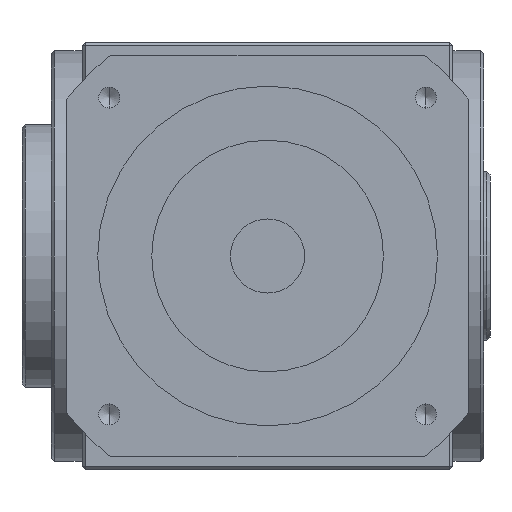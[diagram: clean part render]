
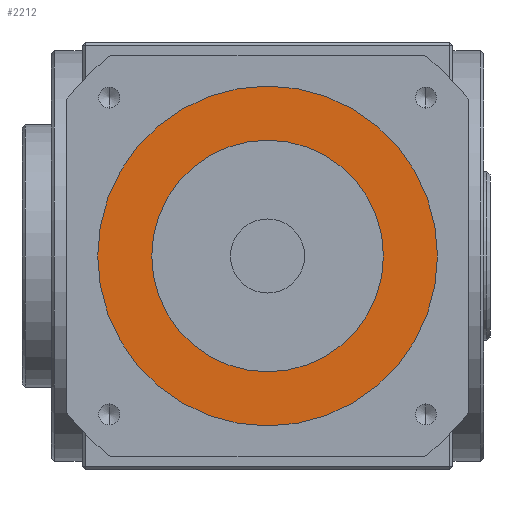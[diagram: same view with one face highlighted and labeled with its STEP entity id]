
A CAD part, front view. The second image highlights one B-rep face of the part: STEP entity #2212.
In plain terms, the highlighted planar face has unit normal (0, -1, 0).
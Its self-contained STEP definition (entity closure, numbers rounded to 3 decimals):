
#247 = VERTEX_POINT ( 'NONE', #3804 ) ;
#351 = PLANE ( 'NONE',  #2389 ) ;
#1045 = EDGE_LOOP ( 'NONE', ( #6663, #8742 ) ) ;
#1274 = CARTESIAN_POINT ( 'NONE',  ( 0., -239., 0. ) ) ;
#1346 = DIRECTION ( 'NONE',  ( 0., -1., 0. ) ) ;
#1473 = VERTEX_POINT ( 'NONE', #7225 ) ;
#2212 = ADVANCED_FACE ( 'NONE', ( #10830, #2342 ), #351, .T. ) ;
#2342 = FACE_BOUND ( 'NONE', #7920, .T. ) ;
#2389 = AXIS2_PLACEMENT_3D ( 'NONE', #1274, #3767, #9541 ) ;
#2500 = CIRCLE ( 'NONE', #6617, 37.5 ) ;
#2661 = CARTESIAN_POINT ( 'NONE',  ( 0., -239., 0. ) ) ;
#2973 = CARTESIAN_POINT ( 'NONE',  ( 0., -239., -55. ) ) ;
#3064 = VERTEX_POINT ( 'NONE', #2973 ) ;
#3330 = CIRCLE ( 'NONE', #7655, 55. ) ;
#3484 = DIRECTION ( 'NONE',  ( 0., 0., -1. ) ) ;
#3554 = DIRECTION ( 'NONE',  ( 0., -1., 0. ) ) ;
#3767 = DIRECTION ( 'NONE',  ( 0., -1., 0. ) ) ;
#3804 = CARTESIAN_POINT ( 'NONE',  ( 0., -239., -37.5 ) ) ;
#3884 = VERTEX_POINT ( 'NONE', #10444 ) ;
#4265 = CIRCLE ( 'NONE', #5677, 55. ) ;
#4968 = DIRECTION ( 'NONE',  ( 0., 1., 0. ) ) ;
#5677 = AXIS2_PLACEMENT_3D ( 'NONE', #6268, #1346, #7103 ) ;
#6268 = CARTESIAN_POINT ( 'NONE',  ( 0., -239., 0. ) ) ;
#6435 = AXIS2_PLACEMENT_3D ( 'NONE', #2661, #8404, #3484 ) ;
#6476 = EDGE_CURVE ( 'NONE', #1473, #3064, #3330, .T. ) ;
#6617 = AXIS2_PLACEMENT_3D ( 'NONE', #9913, #4968, #10758 ) ;
#6663 = ORIENTED_EDGE ( 'NONE', *, *, #8091, .T. ) ;
#7103 = DIRECTION ( 'NONE',  ( 0., 0., -1. ) ) ;
#7225 = CARTESIAN_POINT ( 'NONE',  ( 0., -239., 55. ) ) ;
#7655 = AXIS2_PLACEMENT_3D ( 'NONE', #8478, #3554, #9303 ) ;
#7721 = EDGE_CURVE ( 'NONE', #247, #3884, #2500, .T. ) ;
#7879 = EDGE_CURVE ( 'NONE', #3884, #247, #9704, .T. ) ;
#7920 = EDGE_LOOP ( 'NONE', ( #9248, #10415 ) ) ;
#8091 = EDGE_CURVE ( 'NONE', #3064, #1473, #4265, .T. ) ;
#8404 = DIRECTION ( 'NONE',  ( 0., 1., 0. ) ) ;
#8478 = CARTESIAN_POINT ( 'NONE',  ( 0., -239., 0. ) ) ;
#8742 = ORIENTED_EDGE ( 'NONE', *, *, #6476, .T. ) ;
#9248 = ORIENTED_EDGE ( 'NONE', *, *, #7721, .T. ) ;
#9303 = DIRECTION ( 'NONE',  ( 0., 0., -1. ) ) ;
#9541 = DIRECTION ( 'NONE',  ( 0., 0., -1. ) ) ;
#9704 = CIRCLE ( 'NONE', #6435, 37.5 ) ;
#9913 = CARTESIAN_POINT ( 'NONE',  ( 0., -239., 0. ) ) ;
#10415 = ORIENTED_EDGE ( 'NONE', *, *, #7879, .T. ) ;
#10444 = CARTESIAN_POINT ( 'NONE',  ( 0., -239., 37.5 ) ) ;
#10758 = DIRECTION ( 'NONE',  ( 0., 0., -1. ) ) ;
#10830 = FACE_OUTER_BOUND ( 'NONE', #1045, .T. ) ;
